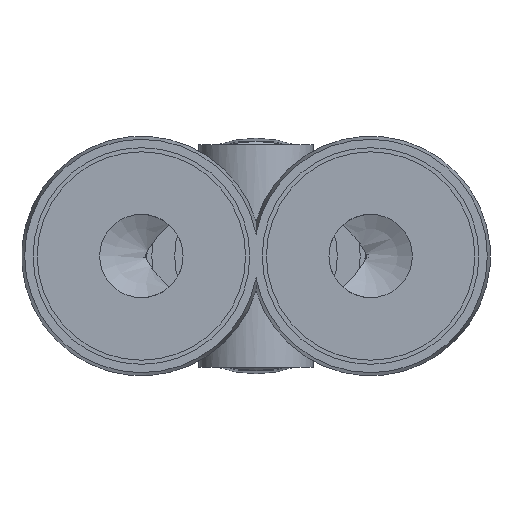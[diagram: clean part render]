
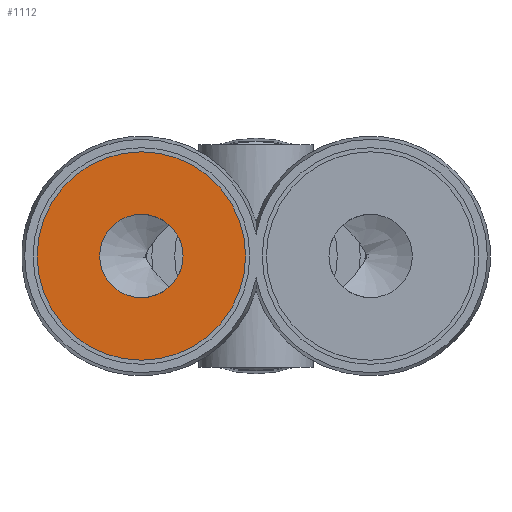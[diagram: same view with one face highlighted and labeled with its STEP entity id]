
A CAD part, front view. The second image highlights one B-rep face of the part: STEP entity #1112.
In plain terms, the highlighted planar face has unit normal (0, -1, 0).
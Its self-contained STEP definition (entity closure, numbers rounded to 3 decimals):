
#74=FACE_BOUND('',#208,.T.);
#98=PLANE('',#1238);
#141=FACE_OUTER_BOUND('',#207,.T.);
#207=EDGE_LOOP('',(#893,#894));
#208=EDGE_LOOP('',(#895,#896));
#360=CIRCLE('',#1220,2.);
#361=CIRCLE('',#1221,2.);
#371=CIRCLE('',#1239,5.);
#372=CIRCLE('',#1240,5.);
#480=VERTEX_POINT('',#2139);
#481=VERTEX_POINT('',#2140);
#495=VERTEX_POINT('',#2244);
#496=VERTEX_POINT('',#2245);
#624=EDGE_CURVE('',#480,#481,#360,.T.);
#625=EDGE_CURVE('',#481,#480,#361,.T.);
#647=EDGE_CURVE('',#495,#496,#371,.T.);
#648=EDGE_CURVE('',#496,#495,#372,.T.);
#893=ORIENTED_EDGE('',*,*,#647,.F.);
#894=ORIENTED_EDGE('',*,*,#648,.F.);
#895=ORIENTED_EDGE('',*,*,#624,.T.);
#896=ORIENTED_EDGE('',*,*,#625,.T.);
#1112=ADVANCED_FACE('',(#141,#74),#98,.F.);
#1220=AXIS2_PLACEMENT_3D('',#2141,#1451,#1452);
#1221=AXIS2_PLACEMENT_3D('',#2142,#1453,#1454);
#1238=AXIS2_PLACEMENT_3D('',#2243,#1493,#1494);
#1239=AXIS2_PLACEMENT_3D('',#2246,#1495,#1496);
#1240=AXIS2_PLACEMENT_3D('',#2247,#1497,#1498);
#1451=DIRECTION('center_axis',(0.,1.,0.));
#1452=DIRECTION('ref_axis',(1.,0.,0.));
#1453=DIRECTION('center_axis',(0.,1.,0.));
#1454=DIRECTION('ref_axis',(1.,0.,0.));
#1493=DIRECTION('center_axis',(0.,1.,0.));
#1494=DIRECTION('ref_axis',(0.,0.,-1.));
#1495=DIRECTION('center_axis',(0.,1.,0.));
#1496=DIRECTION('ref_axis',(-1.,0.,0.));
#1497=DIRECTION('center_axis',(0.,1.,0.));
#1498=DIRECTION('ref_axis',(-1.,0.,0.));
#2139=CARTESIAN_POINT('',(-3.5,-13.8,0.));
#2140=CARTESIAN_POINT('',(-7.5,-13.8,0.));
#2141=CARTESIAN_POINT('Origin',(-5.5,-13.8,0.));
#2142=CARTESIAN_POINT('Origin',(-5.5,-13.8,0.));
#2243=CARTESIAN_POINT('Origin',(-5.5,-13.8,0.));
#2244=CARTESIAN_POINT('',(-10.5,-13.8,0.));
#2245=CARTESIAN_POINT('',(-0.5,-13.8,0.));
#2246=CARTESIAN_POINT('Origin',(-5.5,-13.8,0.));
#2247=CARTESIAN_POINT('Origin',(-5.5,-13.8,0.));
